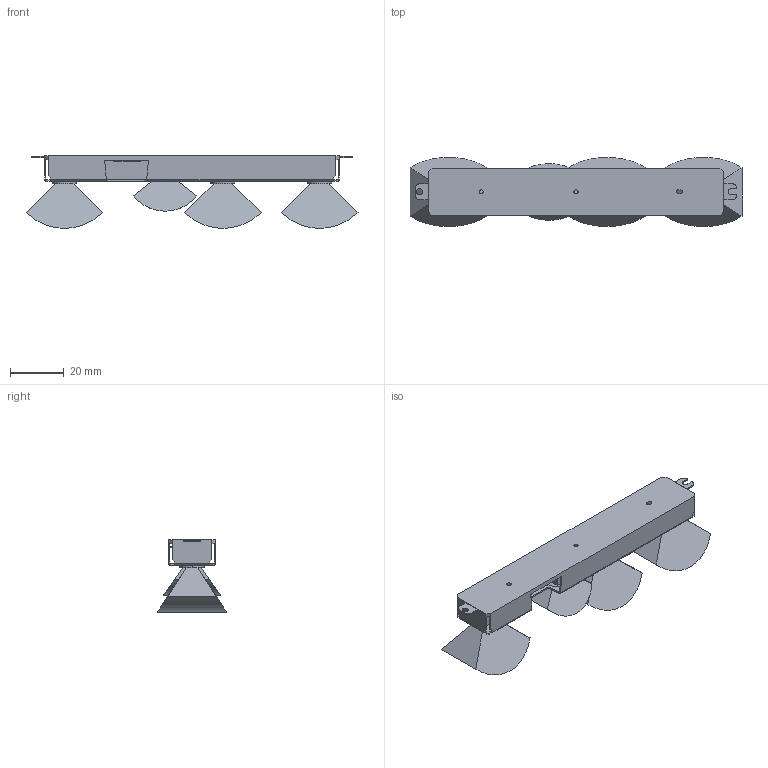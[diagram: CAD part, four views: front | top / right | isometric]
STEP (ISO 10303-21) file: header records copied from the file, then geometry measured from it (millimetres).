
FILE_DESCRIPTION((''),'2;1');
FILE_NAME('AM0600115_REV01_ASM_EXTERNAL_ASM','2020-10-22T14:45:02',('wkho'),('INTEL'),'CREO PARAMETRIC BY PTC INC, 2019080','CREO PARAMETRIC BY PTC INC, 2019080','');
FILE_SCHEMA(('CONFIG_CONTROL_DESIGN'));
Length unit declared in the file: millimetre
Products named in the file (6): DS8480D-ASSM-MECH_00D1_OP_D6__1; LEN000021_WITH_FOV_ASM_1_ASM_1_ASM; DS8580B-ASSM-MECH_02_OP_D6__FOV; AM0600115_REV01_ASM_EXTERNAL_AS_ASM; AM0600115_INT_REV01_2_SW0001; AM0600115_REV01_ASM_EXTERNAL_ASM
Assembly tree (7 placements, depth 4):
  AM0600115_REV01_ASM_EXTERNAL_ASM
    AM0600115_REV01_ASM_EXTERNAL_AS_ASM
      LEN000021_WITH_FOV_ASM_1_ASM_1_ASM  x3
        DS8480D-ASSM-MECH_00D1_OP_D6__1
      DS8580B-ASSM-MECH_02_OP_D6__FOV
    AM0600115_INT_REV01_2_SW0001
Bounding box: 123.58 x 25.73 x 27.07 mm (x, y, z)
Volume: 25190.4 mm3; surface area: 18848.8 mm2
Topology: 6 solids, 6 shells, 1031 faces, 2871 edges, 1941 vertices
Faces by surface type: plane 704, extrusion 159, cylinder 120, cone 24, torus 12, revolution 10, bspline 2
Entity records: 49105 total; most frequent: CARTESIAN_POINT 23115, ORIENTED_EDGE 5662, DIRECTION 4645, EDGE_CURVE 2831, VECTOR 2281, LINE 2122, VERTEX_POINT 1921, AXIS2_PLACEMENT_3D 1177
